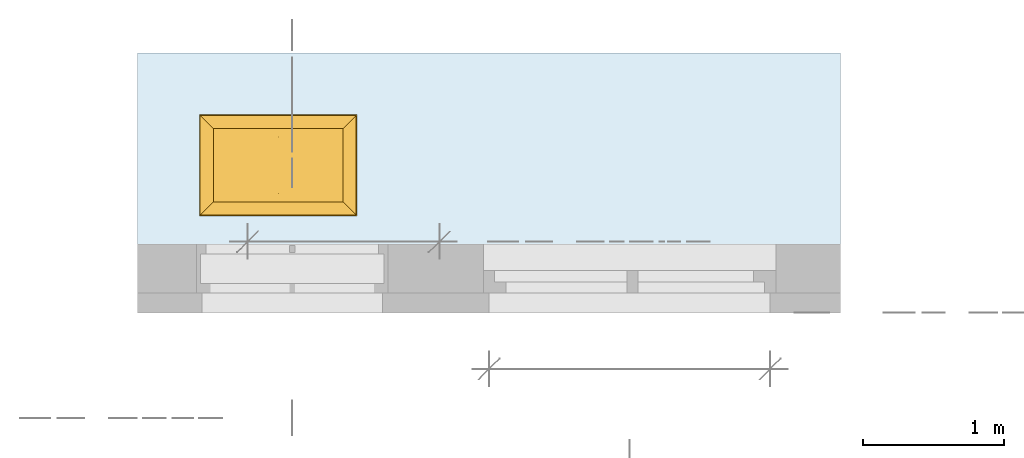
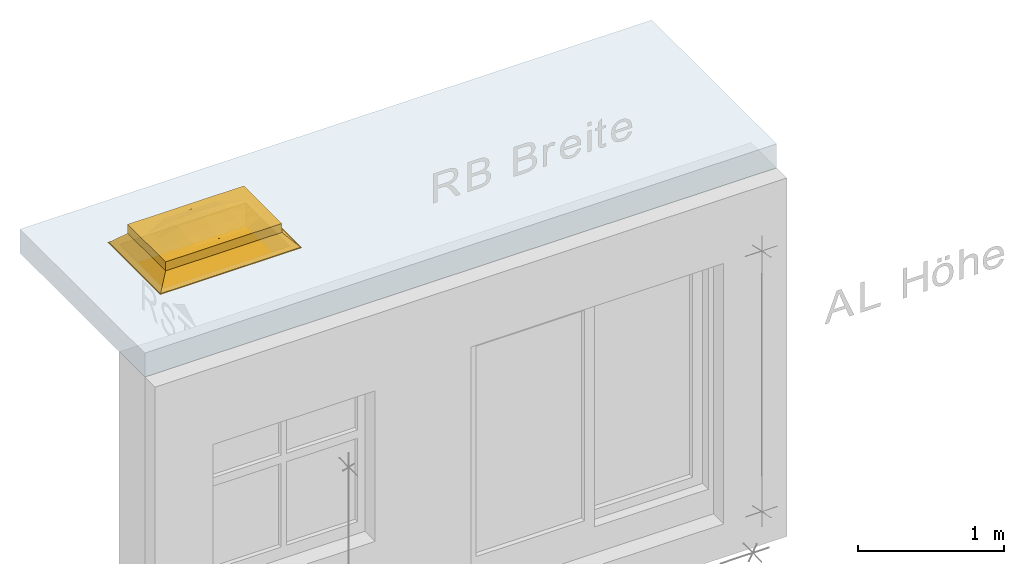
# One storey, part 2 of 5: 1 window, 1 opening, plus 1 element that does not belong to this part.
"""IFC4 building model written with IfcOpenShell, lengths in metres."""

import ifcopenshell
import ifcopenshell.guid

model = None  # the IFC model being written
_history = None  # IfcOwnerHistory: only IFC2X3 demands one
_inside = {}  # id of a spatial element -> (the spatial element, [elements in it])
_under = {}  # id of a project, library or spatial element -> (it, [spatial elements below it])
_declared = {}  # id of a project -> (the project, [libraries it declares])
_typed = {}  # id of a type object -> (the type object, [elements of that type])
_made_of = {}  # id of a material, layer set ... -> (it, [elements and type objects made of it])


def new_model(schema):
    """Start an empty IFC model of exactly this schema.

    Asked for "IFC4X3", IfcOpenShell would pick the latest addendum, in which some entities
    have other attributes; the version numbers below select the first issue.
    IFC2X3 requires an IfcOwnerHistory on every rooted entity: one is made here for all.
    """
    global model, _history
    if schema == "IFC4X3":
        model = ifcopenshell.file(schema_version=(4, 3, 0, 0))
    else:
        model = ifcopenshell.file(schema=schema)
    _inside.clear()
    _under.clear()
    _declared.clear()
    _typed.clear()
    _made_of.clear()
    _history = None
    if model.schema == "IFC2X3":
        org = make("IfcOrganization", Name="unknown")
        user = make(
            "IfcPersonAndOrganization",
            ThePerson=make("IfcPerson", FamilyName="unknown"),
            TheOrganization=org,
        )
        app = make(
            "IfcApplication",
            ApplicationDeveloper=org,
            Version="unknown",
            ApplicationFullName="unknown",
            ApplicationIdentifier="unknown",
        )
        _history = make(
            "IfcOwnerHistory",
            OwningUser=user,
            OwningApplication=app,
            ChangeAction="ADDED",
            CreationDate=0,
        )
    return model


def make(cls, **values):
    """One entity of the class cls with the attributes given. An attribute that is None is left unset."""
    return model.create_entity(
        cls, **{name: value for name, value in values.items() if value is not None}
    )


def entity(cls, *values):
    """Any entity or typed value of the class cls, its attributes in the order of the schema. None: left unset."""
    e = model.create_entity(cls)
    for i, value in enumerate(values):
        if value is not None:
            e[i] = value
    return e


def rooted(cls, **values):
    """An entity with a GlobalId (a new one), such as an element, a storey or a relation."""
    return make(cls, GlobalId=ifcopenshell.guid.new(), OwnerHistory=_history, **values)


def si_unit(unit_type, name, prefix=None):
    """IfcSIUnit, for example si_unit("LENGTHUNIT", "METRE", prefix="MILLI")."""
    return make("IfcSIUnit", UnitType=unit_type, Prefix=prefix, Name=name)


def converted_unit(unit_type, name, factor, base, dimensions=None, offset=None):
    """IfcConversionBasedUnit, such as the inch: factor (a typed value) times the base unit."""
    return make(
        "IfcConversionBasedUnit"
        if offset is None
        else "IfcConversionBasedUnitWithOffset",
        ConversionOffset=offset,
        Dimensions=None
        if dimensions is None
        else entity("IfcDimensionalExponents", *dimensions),
        UnitType=unit_type,
        Name=name,
        ConversionFactor=make(
            "IfcMeasureWithUnit", ValueComponent=factor, UnitComponent=base
        ),
    )


def derived_unit(unit_type, elements):
    """IfcDerivedUnit: a product of units, each with its exponent."""
    return make(
        "IfcDerivedUnit",
        Elements=[
            make("IfcDerivedUnitElement", Unit=unit, Exponent=power)
            for unit, power in elements
        ],
        UnitType=unit_type,
    )


def assignment(units):
    """IfcUnitAssignment: the units of a project."""
    return None if units is None else make("IfcUnitAssignment", Units=units)


def point(xyz):
    """IfcCartesianPoint."""
    return None if xyz is None else make("IfcCartesianPoint", Coordinates=xyz)


def direction(xyz):
    """IfcDirection."""
    return None if xyz is None else make("IfcDirection", DirectionRatios=xyz)


def frame(location, z_axis=None, x_axis=None):
    """IfcAxis2Placement3D, a coordinate frame: its origin and axes. An axis left out is left unset."""
    return make(
        "IfcAxis2Placement3D",
        Location=point(location),
        Axis=direction(z_axis),
        RefDirection=direction(x_axis),
    )


def frame_2d(location, x_axis=None):
    """IfcAxis2Placement2D, a coordinate frame in the plane: its origin and x axis."""
    return make(
        "IfcAxis2Placement2D", Location=point(location), RefDirection=direction(x_axis)
    )


def origin():
    """The frame at (0, 0, 0) with its axes left unset."""
    return frame((0.0, 0.0, 0.0))


def origin_with_axes():
    """The frame at (0, 0, 0) with the z axis (0, 0, 1) and the x axis (1, 0, 0) written out."""
    return frame((0.0, 0.0, 0.0), z_axis=(0.0, 0.0, 1.0), x_axis=(1.0, 0.0, 0.0))


def place(relative_to, where):
    """IfcLocalPlacement: puts the frame where relative to a parent placement (None: the world)."""
    return make(
        "IfcLocalPlacement", PlacementRelTo=relative_to, RelativePlacement=where
    )


def context(
    kind, dimensions, precision=None, world=None, true_north=None, identifier=None
):
    """IfcGeometricRepresentationContext, for example the 3D "Model" context."""
    return make(
        "IfcGeometricRepresentationContext",
        ContextIdentifier=identifier,
        ContextType=kind,
        CoordinateSpaceDimension=dimensions,
        Precision=precision,
        WorldCoordinateSystem=world,
        TrueNorth=true_north,
    )


def subcontext(parent, identifier, kind, view, scale=None):
    """IfcGeometricRepresentationSubContext, for example "Body" below "Model"."""
    return make(
        "IfcGeometricRepresentationSubContext",
        ContextIdentifier=identifier,
        ContextType=kind,
        ParentContext=parent,
        TargetScale=scale,
        TargetView=view,
    )


def project(units=None, contexts=None):
    """IfcProject with its units and contexts."""
    return rooted(
        "IfcProject",
        Name="project",
        RepresentationContexts=contexts,
        UnitsInContext=assignment(units),
    )


def spatial(cls, under=None, at=None, **own):
    """A site, building, storey or space (cls), placed at a placement, below another one or the project."""
    s = rooted(cls, ObjectPlacement=at, **own)
    if under is not None:
        _under.setdefault(under.id(), (under, []))[1].append(s)
    return s


def profile(cls, at=None, kind="AREA", **sizes):
    """A parametric profile (cls). Its sizes go by their IFC names, for example OverallWidth=200.0."""
    return make(cls, ProfileType=kind, Position=at, **sizes)


def rectangle(**sizes):
    """IfcRectangleProfileDef."""
    return profile("IfcRectangleProfileDef", **sizes)


def extrude(swept, where, along, depth):
    """IfcExtrudedAreaSolid: the profile swept, set in the frame where, extruded along a direction by depth."""
    return make(
        "IfcExtrudedAreaSolid",
        SweptArea=swept,
        Position=where,
        ExtrudedDirection=direction(along),
        Depth=depth,
    )


def faces_of(points, faces, orient=None, outer=None):
    """IfcFace entities. A face is a list of loops; a loop is a list of indices into points, from 0.

    orient and outer hold one flag for each loop. By default every Orientation is true, the
    first loop of a face is its IfcFaceOuterBound and the others are IfcFaceBound.
    """
    made = []
    for i, loops in enumerate(faces):
        bounds = []
        for j, loop in enumerate(loops):
            is_outer = j == 0 if outer is None else outer[i][j]
            bounds.append(
                make(
                    "IfcFaceOuterBound" if is_outer else "IfcFaceBound",
                    Bound=make("IfcPolyLoop", Polygon=[points[k] for k in loop]),
                    Orientation=True if orient is None else orient[i][j],
                )
            )
        made.append(make("IfcFace", Bounds=bounds))
    return made


def closed_shell(faces, orient=None, outer=None):
    """The faces of one IfcClosedShell. faceted_brep and surface_model build it on their shared points."""
    return ("IfcClosedShell", faces, orient, outer)


def open_shell(faces, orient=None, outer=None):
    """The faces of one IfcOpenShell. surface_model builds it on its shared points."""
    return ("IfcOpenShell", faces, orient, outer)


def surface_model(cls, points, shells):
    """IfcFaceBasedSurfaceModel or IfcShellBasedSurfaceModel (cls): surfaces that need not close."""
    shared = [point(p) for p in points]
    made = [make(c, CfsFaces=faces_of(shared, fs, o, b)) for c, fs, o, b in shells]
    if cls == "IfcFaceBasedSurfaceModel":
        return make(cls, FbsmFaces=made)
    return make(cls, SbsmBoundary=made)


def shape(context_of_items, identifier, shape_type, items):
    """IfcShapeRepresentation: the items that make up one representation, for example the "Body"."""
    return make(
        "IfcShapeRepresentation",
        ContextOfItems=context_of_items,
        RepresentationIdentifier=identifier,
        RepresentationType=shape_type,
        Items=items,
    )


def source(mapping_origin, context_of_items, identifier, shape_type, items):
    """IfcRepresentationMap: a shape defined once, which mapped items show again and again."""
    return make(
        "IfcRepresentationMap",
        MappingOrigin=mapping_origin,
        MappedRepresentation=shape(context_of_items, identifier, shape_type, items),
    )


def transform(
    local_origin,
    x_axis=None,
    y_axis=None,
    z_axis=None,
    scale=None,
    scale2=None,
    scale3=None,
    uniform=True,
):
    """IfcCartesianTransformationOperator3D, or its non-uniform kind. x_axis, y_axis, z_axis: its Axis1, 2, 3."""
    if uniform:
        return make(
            "IfcCartesianTransformationOperator3D",
            Axis1=direction(x_axis),
            Axis2=direction(y_axis),
            LocalOrigin=point(local_origin),
            Scale=scale,
            Axis3=direction(z_axis),
        )
    return make(
        "IfcCartesianTransformationOperator3DnonUniform",
        Axis1=direction(x_axis),
        Axis2=direction(y_axis),
        LocalOrigin=point(local_origin),
        Scale=scale,
        Axis3=direction(z_axis),
        Scale2=scale2,
        Scale3=scale3,
    )


def mapped(mapping_source, mapping_target):
    """IfcMappedItem: shows the shape of a source again, moved by a transform."""
    return make(
        "IfcMappedItem", MappingSource=mapping_source, MappingTarget=mapping_target
    )


def material(Name=None, Category=None):
    """IfcMaterial."""
    return make("IfcMaterial", Name=Name, Category=Category)


def made_of(thing, what):
    """Note that an element or type object is made of a material, layer set ...; save() writes the relation."""
    if what is not None:
        _made_of.setdefault(what.id(), (what, []))[1].append(thing)
    return thing


def element(
    cls,
    number,
    at=None,
    inside=None,
    cuts=None,
    type_object=None,
    material=None,
    context=None,
    identifier="Body",
    shape_type=None,
    held_by="IfcProductDefinitionShape",
    body=None,
    shapes=None,
    **own,
):
    """One element of the class cls, such as IfcWall. Its Tag is "e" and its number.

    at: its placement. inside: the storey or other place that contains it. cuts: it is an
    opening in that element (IfcRelVoidsElement). A single representation is given by context,
    identifier, shape_type and body (its items); several are given by shapes. held_by: the class
    of the entity that holds the representations. save() writes the other relations.
    """
    e = rooted(cls, Tag="e%d" % number, ObjectPlacement=at, **own)
    if body is not None:
        shapes = [shape(context, identifier, shape_type, body)]
    if shapes is not None:
        e.Representation = make(held_by, Representations=shapes)
    if inside is not None:
        _inside.setdefault(inside.id(), (inside, []))[1].append(e)
    if cuts is not None:
        rooted(
            "IfcRelVoidsElement", RelatingBuildingElement=cuts, RelatedOpeningElement=e
        )
    if type_object is not None:
        _typed.setdefault(type_object.id(), (type_object, []))[1].append(e)
    return made_of(e, material)


def fill(opening, filler):
    """IfcRelFillsElement: the door or window that sits in an opening."""
    return rooted(
        "IfcRelFillsElement",
        RelatingOpeningElement=opening,
        RelatedBuildingElement=filler,
    )


def aggregate(whole, parts):
    """IfcRelAggregates: a whole, such as a stair, and the parts it consists of."""
    return rooted("IfcRelAggregates", RelatingObject=whole, RelatedObjects=parts)


def save(model, path):
    """Write the relations noted so far, then the file.

    IfcRelAggregates (storeys below a building ...), IfcRelContainedInSpatialStructure (elements
    in a storey), IfcRelDefinesByType, IfcRelAssociatesMaterial and IfcRelDeclares: one each for
    every whole, place, type object, material and project.
    """
    for whole, parts in _under.values():
        aggregate(whole, parts)
    for where, things in _inside.values():
        rooted(
            "IfcRelContainedInSpatialStructure",
            RelatedElements=things,
            RelatingStructure=where,
        )
    for kind, things in _typed.values():
        rooted("IfcRelDefinesByType", RelatedObjects=things, RelatingType=kind)
    for what, things in _made_of.values():
        rooted("IfcRelAssociatesMaterial", RelatedObjects=things, RelatingMaterial=what)
    for by, libraries in _declared.values():
        rooted("IfcRelDeclares", RelatingContext=by, RelatedDefinitions=libraries)
    model.write(path)


model = new_model("IFC4")

# Units and contexts
model_context = context("Model", 3, precision=1e-05, world=origin())
body_context = subcontext(model_context, "Body", "Model", "MODEL_VIEW")
ifc_project = project(units=[si_unit("LENGTHUNIT", "METRE"), si_unit("AREAUNIT", "SQUARE_METRE"), si_unit("VOLUMEUNIT", "CUBIC_METRE"), si_unit("MASSUNIT", "GRAM", prefix="KILO"), converted_unit("PLANEANGLEUNIT", "DEGREE", entity("IfcPlaneAngleMeasure", 0.0174532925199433), si_unit("PLANEANGLEUNIT", "RADIAN"), dimensions=[0, 0, 0, 0, 0, 0, 0]), derived_unit("THERMALTRANSMITTANCEUNIT", [(si_unit("POWERUNIT", "WATT"), 1), (si_unit("THERMODYNAMICTEMPERATUREUNIT", "KELVIN"), -1), (si_unit("LENGTHUNIT", "METRE"), -2)]), derived_unit("VOLUMETRICFLOWRATEUNIT", [(si_unit("LENGTHUNIT", "METRE"), 3), (converted_unit("TIMEUNIT", "hour", entity("IfcTimeMeasure", 3600.0), si_unit("TIMEUNIT", "SECOND"), dimensions=[0, 0, 1, 0, 0, 0, 0]), -1), (si_unit("LENGTHUNIT", "METRE"), -1)])], contexts=[model_context])

# Site, building, storey
site_placement = place(None, origin())
site = spatial("IfcSite", under=ifc_project, at=site_placement, Name="Liegenschaft", CompositionType="ELEMENT")
building_placement = place(site_placement, origin())
building = spatial("IfcBuilding", under=site, at=building_placement, Name="Gebäude", CompositionType="ELEMENT")
storey_placement = place(building_placement, origin())
storey = spatial("IfcBuildingStorey", under=building, at=storey_placement, Name="Geschoss 01", CompositionType="ELEMENT", Elevation=0.0)

# Slab, opening, window
ifc_material = material(Name="C25/30")
slab_placement = place(storey_placement, frame((209.064213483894, 1.38187041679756, 3.0)))
slab = element("IfcSlab", 1, at=slab_placement, inside=storey, material=ifc_material, Name="WA_01", PredefinedType="FLOOR", context=body_context, shape_type="SweptSolid", body=[
    extrude(rectangle(XDim=5.0, YDim=1.71, at=frame_2d((2.5, 0.855), x_axis=(1.0, 0.0))), origin_with_axes(), (0.0, 0.0, 1.0), 0.2),
])
opening_placement = place(slab_placement, frame((0.5, 0.61, 0.0)))
opening = element("IfcOpeningElement", 2, at=opening_placement, cuts=slab, Name="DDB_01", PredefinedType="OPENING", context=body_context, shape_type="SweptSolid", body=[
    extrude(rectangle(XDim=0.6, YDim=1.0, at=frame_2d((0.0, 0.0), x_axis=(0.0, -1.0))), frame((0.499999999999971, 0.3, 0.0), z_axis=(0.0, 0.0, 1.0), x_axis=(1.0, 0.0, 0.0)), (0.0, 0.0, 1.0), 0.2),
])
shared_shape = source(origin_with_axes(), body_context, "Body", "SurfaceModel", [
    surface_model("IfcShellBasedSurfaceModel", [(0.06, 0.0600000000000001, 0.0), (0.15999014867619, 0.15999014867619, 0.105), (0.15999014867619, 0.15999014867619, 0.15), (0.0999901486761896, 0.0999901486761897, 0.15), (0.0999901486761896, 0.0999901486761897, 0.105), (0.00519418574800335, 0.00519418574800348, 0.0054544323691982), (0.0, 0.0, 0.005), (0.0, 0.0, 0.0), (1.06, 0.06, 0.0), (0.96000985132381, 0.15999014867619, 0.105), (0.96000985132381, 0.15999014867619, 0.15), (0.0999901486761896, 0.620009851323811, 0.15), (1.02000985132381, 0.62000985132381, 0.15), (1.02000985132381, 0.0999901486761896, 0.15), (0.960009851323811, 0.56000985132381, 0.15), (0.15999014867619, 0.560009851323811, 0.15), (1.02000985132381, 0.0999901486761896, 0.105), (1.114805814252, 0.00519418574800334, 0.0054544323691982), (1.12, 0.0, 0.005), (1.12, 0.0, 0.0), (1.12, 0.72, 0.0), (0.0, 0.72, 0.0), (0.0600000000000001, 0.66, 0.0), (1.06, 0.66, 0.0), (0.960009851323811, 0.56000985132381, 0.105), (1.02000985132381, 0.62000985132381, 0.105), (1.114805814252, 0.714805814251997, 0.0054544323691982), (1.12, 0.72, 0.005), (0.15999014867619, 0.560009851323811, 0.105), (0.0999901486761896, 0.620009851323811, 0.105), (0.00519418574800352, 0.714805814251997, 0.0054544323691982), (0.0, 0.72, 0.005)], [closed_shell([[[0, 1, 2, 3, 4, 5, 6, 7]], [[0, 8, 9, 1]], [[1, 9, 10, 2]], [[3, 11, 12, 13], [2, 10, 14, 15]], [[3, 13, 16, 4]], [[4, 16, 17, 5]], [[5, 17, 18, 6]], [[6, 18, 19, 7]], [[7, 19, 20, 21], [0, 22, 23, 8]], [[8, 23, 24, 9]], [[9, 24, 14, 10]], [[13, 12, 25, 16]], [[16, 25, 26, 17]], [[17, 26, 27, 18]], [[18, 27, 20, 19]], [[23, 22, 28, 24]], [[24, 28, 15, 14]], [[12, 11, 29, 25]], [[25, 29, 30, 26]], [[26, 30, 31, 27]], [[27, 31, 21, 20]], [[0, 7, 6, 5, 4, 3, 2, 1]], [[22, 0, 1, 28]], [[28, 1, 2, 15]], [[11, 3, 4, 29]], [[29, 4, 5, 30]], [[30, 5, 6, 31]], [[31, 6, 7, 21]]], orient=[[False], [False], [False], [False, False], [False], [False], [False], [False], [False, False], [False], [False], [False], [False], [False], [False], [False], [False], [False], [False], [False], [False], [False], [False], [False], [False], [False], [False], [False]])]),
    surface_model("IfcShellBasedSurfaceModel", [(0.0999901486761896, 0.62000985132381, 0.15), (0.0999901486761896, 0.0999901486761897, 0.15), (1.02000985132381, 0.0999901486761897, 0.15), (1.02000985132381, 0.62000985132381, 0.15), (0.15999014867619, 0.15999014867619, 0.15), (0.15999014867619, 0.560009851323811, 0.15), (0.96000985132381, 0.560009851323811, 0.15), (0.96000985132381, 0.15999014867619, 0.15), (0.0999901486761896, 0.0999901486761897, 0.18), (0.0999901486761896, 0.62000985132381, 0.18), (1.02000985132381, 0.62000985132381, 0.18), (1.02000985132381, 0.0999901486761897, 0.18), (0.15999014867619, 0.560009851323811, 0.18), (0.15999014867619, 0.15999014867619, 0.18), (0.96000985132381, 0.15999014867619, 0.18), (0.96000985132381, 0.560009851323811, 0.18)], [closed_shell([[[0, 1, 2, 3], [4, 5, 6, 7]], [[8, 9, 10, 11], [12, 13, 14, 15]], [[1, 0, 9, 8]], [[2, 1, 8, 11]], [[3, 2, 11, 10]], [[0, 3, 10, 9]], [[4, 13, 12, 5]], [[7, 14, 13, 4]], [[6, 15, 14, 7]], [[5, 12, 15, 6]]], orient=[[False, False], [False, False], [False], [False], [False], [False], [False], [False], [False], [False]])]),
    surface_model("IfcShellBasedSurfaceModel", [(0.15999014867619, 0.259995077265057, 0.18), (0.359995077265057, 0.15999014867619, 0.18), (0.15999014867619, 0.15999014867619, 0.18), (0.760004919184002, 0.15999014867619, 0.18), (0.960009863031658, 0.259995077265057, 0.18), (0.960009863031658, 0.15999014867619, 0.18), (0.359995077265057, 0.560009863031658, 0.18), (0.15999014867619, 0.460004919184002, 0.18), (0.15999014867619, 0.560009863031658, 0.18), (0.960009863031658, 0.460004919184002, 0.18), (0.760004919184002, 0.560009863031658, 0.18), (0.960009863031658, 0.560009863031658, 0.18), (0.359995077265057, 0.259995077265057, 0.208125), (0.15999014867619, 0.360000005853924, 0.18), (0.359995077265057, 0.360000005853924, 0.2175), (0.359995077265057, 0.460004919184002, 0.208125), (0.560000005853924, 0.259995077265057, 0.2175), (0.560000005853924, 0.360000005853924, 0.23), (0.560000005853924, 0.15999014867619, 0.18), (0.760004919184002, 0.259995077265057, 0.208125), (0.760004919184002, 0.360000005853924, 0.2175), (0.960009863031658, 0.360000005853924, 0.18), (0.760004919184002, 0.460004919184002, 0.208125), (0.560000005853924, 0.560009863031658, 0.18), (0.560000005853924, 0.460004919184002, 0.2175)], [open_shell([[[0, 1, 2]], [[3, 4, 5]], [[6, 7, 8]], [[9, 10, 11]], [[1, 0, 12]], [[12, 13, 14]], [[13, 12, 0]], [[15, 13, 7]], [[16, 14, 17]], [[14, 16, 12]], [[12, 18, 1]], [[18, 19, 3]], [[18, 12, 16]], [[19, 18, 16]], [[20, 16, 17]], [[16, 20, 19]], [[19, 21, 4]], [[21, 22, 9]], [[21, 19, 20]], [[4, 3, 19]], [[13, 15, 14]], [[7, 6, 15]], [[15, 23, 24]], [[23, 15, 6]], [[22, 23, 10]], [[14, 24, 17]], [[24, 14, 15]], [[24, 20, 17]], [[20, 24, 22]], [[23, 22, 24]], [[10, 9, 22]], [[22, 21, 20]]], orient=[[False], [False], [False], [False], [False], [False], [False], [False], [False], [False], [False], [False], [False], [False], [False], [False], [False], [False], [False], [False], [False], [False], [False], [False], [False], [False], [False], [False], [False], [False], [False], [False]])]),
])
window_placement = place(opening_placement, frame((-0.06, -0.06, 0.2)))
window = element("IfcWindow", 3, at=window_placement, inside=storey, Name="Lichtkuppel", OverallHeight=0.2, OverallWidth=1.0, PartitioningType="USERDEFINED", PredefinedType="SKYLIGHT", context=body_context, shape_type="MappedRepresentation", body=[
    mapped(shared_shape, transform((0.0, 0.0, 0.0), x_axis=(1.0, 0.0, 0.0), y_axis=(0.0, 1.0, 0.0), z_axis=(0.0, 0.0, 1.0), scale=1.0)),
])
fill(opening, window)

save(model, "model.ifc")
